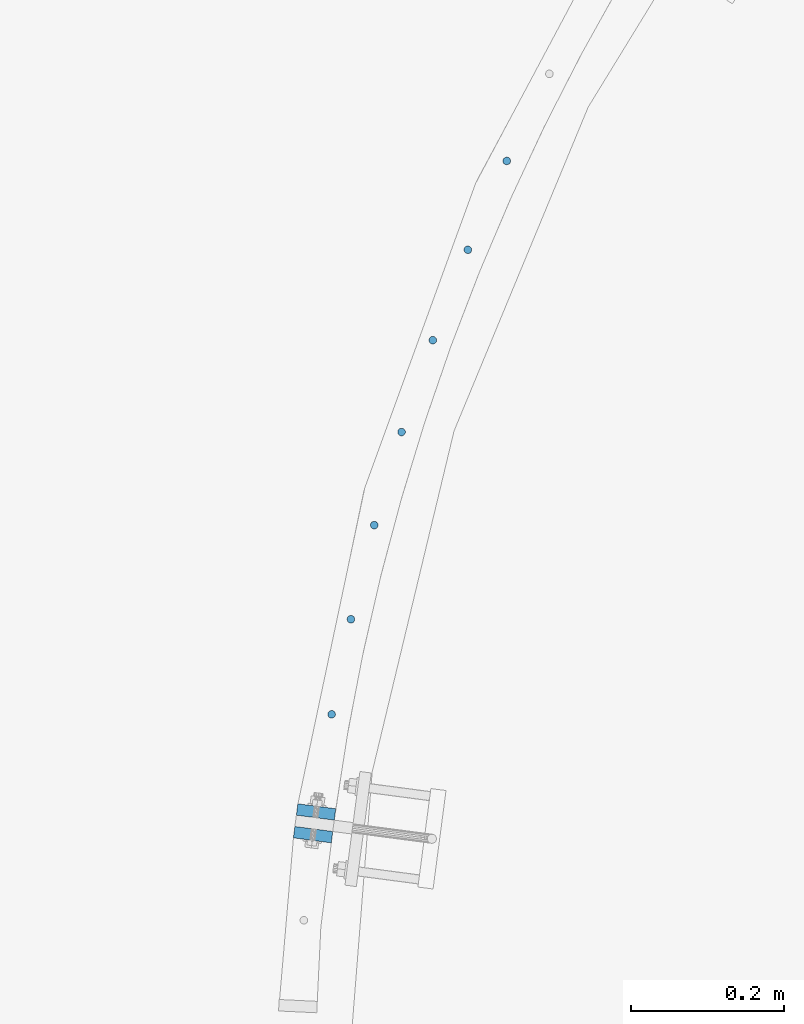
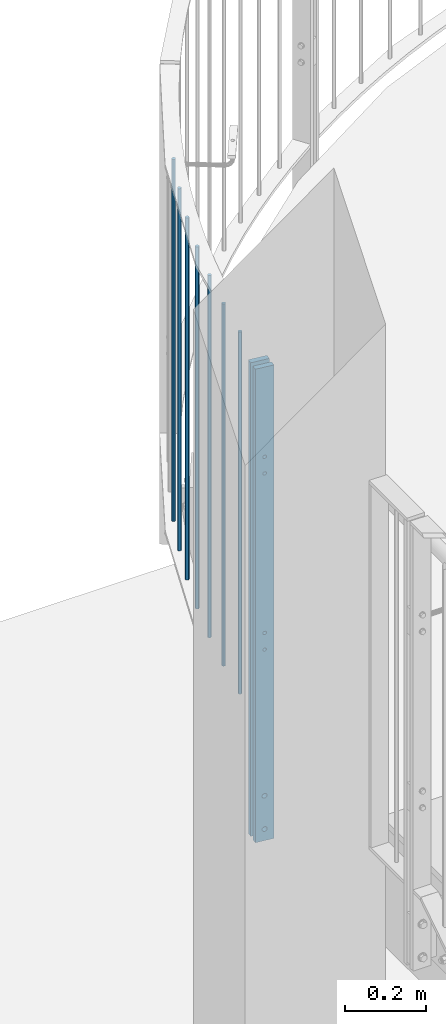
# One storey, part 60 of 296: 9 columns, 12 openings.
"""IFC2X3 building model written with IfcOpenShell, lengths in millimetres."""

from ifc_helpers import new_model, entity, si_unit, converted_unit, frame, frame_2d, origin, origin_with_axes, origin_2d, place, context, project, spatial, rectangle, circle, extrude, material, element, save


model = new_model("IFC2X3")

# Units and contexts
model_context = context("Model", 3, precision=1e-09, world=origin_with_axes())
ifc_project = project(units=[si_unit("LENGTHUNIT", "METRE", prefix="MILLI"), si_unit("AREAUNIT", "SQUARE_METRE"), si_unit("VOLUMEUNIT", "CUBIC_METRE"), converted_unit("PLANEANGLEUNIT", "DEGREE", entity("IfcPlaneAngleMeasure", 0.01745329), si_unit("PLANEANGLEUNIT", "RADIAN"), dimensions=[0, 0, 0, 0, 0, 0, 0])], contexts=[model_context])

# Site, building, storey
site_placement = place(None, origin_with_axes())
site = spatial("IfcSite", under=ifc_project, at=site_placement, Name="TZD-S?d | Treppenhausgel?nder", CompositionType="ELEMENT")
building_placement = place(site_placement, origin_with_axes())
building = spatial("IfcBuilding", under=site, at=building_placement, Name="Struktur 1", CompositionType="ELEMENT")
storey_placement = place(building_placement, origin_with_axes())
storey = spatial("IfcBuildingStorey", under=building, at=storey_placement, Name="Default Storey", CompositionType="ELEMENT", Elevation=0.0)

# Columns
ifc_material = material(Name="S235JR")
for number, where, z_axis, x_axis in (
    (1, (-17.115279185, 432.965487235, 2450.0), (0.0, 0.0, 1.0), (0.0, 1.0, 0.0)),
    (2, (8.162299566, 557.381027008, 2450.0), (0.0, 0.0, 1.0), (0.0, 1.0, 0.0)),
    (3, (38.69866828, 680.611350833, 2450.0), (0.0, 0.0, 1.0), (0.0, 1.0, 0.0)),
    (4, (74.438772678, 802.43428571, 2450.0), (0.0, 0.0, 1.0), (0.0, 1.0, 0.0)),
    (5, (115.31817662, 922.63019603, 2450.0), (0.0, 0.0, 1.0), (0.0, 1.0, 0.0)),
    (6, (161.263178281, 1040.982379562, 2450.0), (0.0, 0.0, 1.0), (0.0, 1.0, 0.0)),
    (7, (212.190943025, 1157.277458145, 2450.0), (0.0, 0.0, 1.0), (0.0, 1.0, 0.0)),
):
    element("IfcColumn", number, at=place(None, frame(where, z_axis=z_axis, x_axis=x_axis)), inside=storey, material=ifc_material, Name="-", ObjectType="-", context=model_context, shape_type="SweptSolid", body=[
        extrude(circle(Radius=5.0, at=origin_2d()), origin(), (0.0, 0.0, 1.0), 1090.0),
    ])

# Column, openings
column_1_placement = place(None, frame((-37.462242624, 305.144987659, 2115.001), z_axis=(0.0, 0.0, -1.0), x_axis=(-0.130526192, -0.991444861, 0.0)))
column_1 = element("IfcColumn", 8, at=column_1_placement, inside=storey, material=ifc_material, Name="-", ObjectType="-", context=model_context, shape_type="SweptSolid", body=[
    extrude(rectangle(XDim=15.0, YDim=50.0, at=origin_2d()), origin(), (0.0, 0.0, -1.0), 1424.999),
])
opening_1_placement = place(column_1_placement, frame((-8.0, 0.0, -1129.999999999), z_axis=(1.0, 0.0, 0.0), x_axis=(0.0, -1.0, 0.0)))
element("IfcOpeningElement", 9, at=opening_1_placement, cuts=column_1, ObjectType="Opening", context=model_context, shape_type="SweptSolid", body=[
    extrude(circle(Radius=5.001, at=frame_2d((0.0, 25.0), x_axis=(1.0, 0.0))), origin(), (0.0, 0.0, 1.0), 16.0),
])
opening_2_placement = place(column_1_placement, frame((-8.0, 0.0, -1129.999999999), z_axis=(1.0, 0.0, 0.0), x_axis=(0.0, -1.0, 0.0)))
element("IfcOpeningElement", 10, at=opening_2_placement, cuts=column_1, ObjectType="Opening", context=model_context, shape_type="SweptSolid", body=[
    extrude(circle(Radius=5.001, at=frame_2d((0.0, -25.0), x_axis=(1.0, 0.0))), origin(), (0.0, 0.0, 1.0), 16.0),
])
opening_3_placement = place(column_1_placement, frame((-8.0, 0.0, -85.0), z_axis=(1.0, 0.0, 0.0), x_axis=(0.0, -1.0, 0.0)))
element("IfcOpeningElement", 11, at=opening_3_placement, cuts=column_1, ObjectType="Opening", context=model_context, shape_type="SweptSolid", body=[
    extrude(circle(Radius=7.001, at=frame_2d((0.0, 50.0), x_axis=(1.0, 0.0))), origin(), (0.0, 0.0, 1.0), 16.0),
])
opening_4_placement = place(column_1_placement, frame((-8.0, 0.0, -85.0), z_axis=(1.0, 0.0, 0.0), x_axis=(0.0, -1.0, 0.0)))
element("IfcOpeningElement", 12, at=opening_4_placement, cuts=column_1, ObjectType="Opening", context=model_context, shape_type="SweptSolid", body=[
    extrude(circle(Radius=7.001, at=frame_2d((0.0, -50.0), x_axis=(1.0, 0.0))), origin(), (0.0, 0.0, 1.0), 16.0),
])
opening_5_placement = place(column_1_placement, frame((-8.0, 0.0, -599.999999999), z_axis=(1.0, 0.0, 0.0), x_axis=(0.0, -1.0, 0.0)))
element("IfcOpeningElement", 13, at=opening_5_placement, cuts=column_1, ObjectType="Opening", context=model_context, shape_type="SweptSolid", body=[
    extrude(circle(Radius=5.001, at=frame_2d((0.0, 25.0), x_axis=(1.0, 0.0))), origin(), (0.0, 0.0, 1.0), 16.0),
])
opening_6_placement = place(column_1_placement, frame((-8.0, 0.0, -599.999999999), z_axis=(1.0, 0.0, 0.0), x_axis=(0.0, -1.0, 0.0)))
element("IfcOpeningElement", 14, at=opening_6_placement, cuts=column_1, ObjectType="Opening", context=model_context, shape_type="SweptSolid", body=[
    extrude(circle(Radius=5.001, at=frame_2d((0.0, -25.0), x_axis=(1.0, 0.0))), origin(), (0.0, 0.0, 1.0), 16.0),
])

column_2_placement = place(None, frame((-41.378028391, 275.401641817, 2115.001), z_axis=(0.0, 0.0, 1.0), x_axis=(0.130526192, 0.991444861, 0.0)))
column_2 = element("IfcColumn", 15, at=column_2_placement, inside=storey, material=ifc_material, Name="-", ObjectType="-", context=model_context, shape_type="SweptSolid", body=[
    extrude(rectangle(XDim=15.0, YDim=50.0, at=origin_2d()), origin(), (0.0, 0.0, 1.0), 1424.999),
])
opening_7_placement = place(column_2_placement, frame((8.0, 0.0, 1129.999999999), z_axis=(-1.0, 0.0, 0.0), x_axis=(0.0, -1.0, 0.0)))
element("IfcOpeningElement", 16, at=opening_7_placement, cuts=column_2, ObjectType="Opening", context=model_context, shape_type="SweptSolid", body=[
    extrude(circle(Radius=5.001, at=frame_2d((0.0, 25.0), x_axis=(1.0, 0.0))), origin(), (0.0, 0.0, 1.0), 16.0),
])
opening_8_placement = place(column_2_placement, frame((8.0, 0.0, 1129.999999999), z_axis=(-1.0, 0.0, 0.0), x_axis=(0.0, -1.0, 0.0)))
element("IfcOpeningElement", 17, at=opening_8_placement, cuts=column_2, ObjectType="Opening", context=model_context, shape_type="SweptSolid", body=[
    extrude(circle(Radius=5.001, at=frame_2d((0.0, -25.0), x_axis=(1.0, 0.0))), origin(), (0.0, 0.0, 1.0), 16.0),
])
opening_9_placement = place(column_2_placement, frame((8.0, 0.0, 599.999999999), z_axis=(-1.0, 0.0, 0.0), x_axis=(0.0, -1.0, 0.0)))
element("IfcOpeningElement", 18, at=opening_9_placement, cuts=column_2, ObjectType="Opening", context=model_context, shape_type="SweptSolid", body=[
    extrude(circle(Radius=5.001, at=frame_2d((0.0, 25.0), x_axis=(1.0, 0.0))), origin(), (0.0, 0.0, 1.0), 16.0),
])
opening_10_placement = place(column_2_placement, frame((8.0, 0.0, 599.999999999), z_axis=(-1.0, 0.0, 0.0), x_axis=(0.0, -1.0, 0.0)))
element("IfcOpeningElement", 19, at=opening_10_placement, cuts=column_2, ObjectType="Opening", context=model_context, shape_type="SweptSolid", body=[
    extrude(circle(Radius=5.001, at=frame_2d((0.0, -25.0), x_axis=(1.0, 0.0))), origin(), (0.0, 0.0, 1.0), 16.0),
])
opening_11_placement = place(column_2_placement, frame((8.0, 0.0, 85.0), z_axis=(-1.0, 0.0, 0.0), x_axis=(0.0, -1.0, 0.0)))
element("IfcOpeningElement", 20, at=opening_11_placement, cuts=column_2, ObjectType="Opening", context=model_context, shape_type="SweptSolid", body=[
    extrude(circle(Radius=7.001, at=frame_2d((0.0, 50.0), x_axis=(1.0, 0.0))), origin(), (0.0, 0.0, 1.0), 16.0),
])
opening_12_placement = place(column_2_placement, frame((8.0, 0.0, 85.0), z_axis=(-1.0, 0.0, 0.0), x_axis=(0.0, -1.0, 0.0)))
element("IfcOpeningElement", 21, at=opening_12_placement, cuts=column_2, ObjectType="Opening", context=model_context, shape_type="SweptSolid", body=[
    extrude(circle(Radius=7.001, at=frame_2d((0.0, -50.0), x_axis=(1.0, 0.0))), origin(), (0.0, 0.0, 1.0), 16.0),
])

save(model, "model.ifc")
